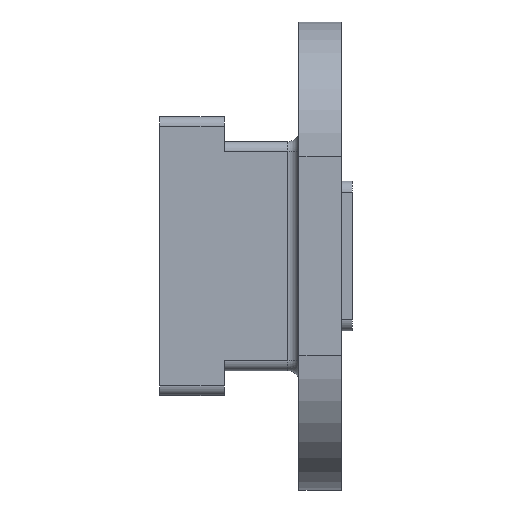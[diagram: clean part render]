
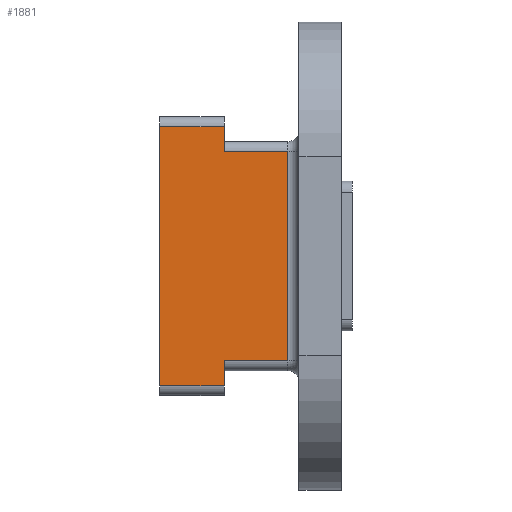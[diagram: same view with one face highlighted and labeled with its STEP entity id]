
A CAD part, top view. The second image highlights one B-rep face of the part: STEP entity #1881.
In plain terms, the highlighted planar face has unit normal (0, 0, 1).
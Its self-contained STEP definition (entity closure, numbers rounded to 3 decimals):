
#128 = PLANE('',#129);
#129 = AXIS2_PLACEMENT_3D('',#130,#131,#132);
#130 = CARTESIAN_POINT('',(36.3,-11.6,-17.));
#131 = DIRECTION('',(1.,0.,-0.));
#132 = DIRECTION('',(0.,0.,1.));
#184 = PLANE('',#185);
#185 = AXIS2_PLACEMENT_3D('',#186,#187,#188);
#186 = CARTESIAN_POINT('',(33.7,-11.6,-17.));
#187 = DIRECTION('',(1.,0.,-0.));
#188 = DIRECTION('',(0.,0.,1.));
#238 = PLANE('',#239);
#239 = AXIS2_PLACEMENT_3D('',#240,#241,#242);
#240 = CARTESIAN_POINT('',(36.3,-11.6,-17.));
#241 = DIRECTION('',(1.,0.,-0.));
#242 = DIRECTION('',(0.,0.,1.));
#493 = VERTEX_POINT('',#494);
#494 = CARTESIAN_POINT('',(36.3,-10.2,-15.));
#513 = CYLINDRICAL_SURFACE('',#514,0.4);
#514 = AXIS2_PLACEMENT_3D('',#515,#516,#517);
#515 = CARTESIAN_POINT('',(36.3,-10.2,-15.4));
#516 = DIRECTION('',(1.,0.,-0.));
#517 = DIRECTION('',(0.,-1.,0.));
#525 = EDGE_CURVE('',#526,#493,#528,.T.);
#526 = VERTEX_POINT('',#527);
#527 = CARTESIAN_POINT('',(36.3,-11.2,-15.));
#528 = SURFACE_CURVE('',#529,(#533,#540),.PCURVE_S1.);
#529 = LINE('',#530,#531);
#530 = CARTESIAN_POINT('',(36.3,-11.6,-15.));
#531 = VECTOR('',#532,1.);
#532 = DIRECTION('',(-0.,1.,0.));
#533 = PCURVE('',#238,#534);
#534 = DEFINITIONAL_REPRESENTATION('',(#535),#539);
#535 = LINE('',#536,#537);
#536 = CARTESIAN_POINT('',(2.,0.));
#537 = VECTOR('',#538,1.);
#538 = DIRECTION('',(0.,-1.));
#539 = ( GEOMETRIC_REPRESENTATION_CONTEXT(2) 
PARAMETRIC_REPRESENTATION_CONTEXT() REPRESENTATION_CONTEXT('2D SPACE',''
  ) );
#540 = PCURVE('',#541,#546);
#541 = PLANE('',#542);
#542 = AXIS2_PLACEMENT_3D('',#543,#544,#545);
#543 = CARTESIAN_POINT('',(33.7,-11.6,-15.));
#544 = DIRECTION('',(0.,0.,1.));
#545 = DIRECTION('',(1.,0.,-0.));
#546 = DEFINITIONAL_REPRESENTATION('',(#547),#551);
#547 = LINE('',#548,#549);
#548 = CARTESIAN_POINT('',(2.6,0.));
#549 = VECTOR('',#550,1.);
#550 = DIRECTION('',(0.,1.));
#551 = ( GEOMETRIC_REPRESENTATION_CONTEXT(2) 
PARAMETRIC_REPRESENTATION_CONTEXT() REPRESENTATION_CONTEXT('2D SPACE',''
  ) );
#572 = CYLINDRICAL_SURFACE('',#573,0.4);
#573 = AXIS2_PLACEMENT_3D('',#574,#575,#576);
#574 = CARTESIAN_POINT('',(33.7,-11.2,-15.4));
#575 = DIRECTION('',(1.,0.,-0.));
#576 = DIRECTION('',(0.,-1.,0.));
#778 = VERTEX_POINT('',#779);
#779 = CARTESIAN_POINT('',(36.3,-0.8,-15.));
#794 = CYLINDRICAL_SURFACE('',#795,0.4);
#795 = AXIS2_PLACEMENT_3D('',#796,#797,#798);
#796 = CARTESIAN_POINT('',(33.7,-0.8,-15.4));
#797 = DIRECTION('',(1.,0.,-0.));
#798 = DIRECTION('',(0.,1.,0.));
#806 = EDGE_CURVE('',#807,#778,#809,.T.);
#807 = VERTEX_POINT('',#808);
#808 = CARTESIAN_POINT('',(36.3,-1.8,-15.));
#809 = SURFACE_CURVE('',#810,(#814,#821),.PCURVE_S1.);
#810 = LINE('',#811,#812);
#811 = CARTESIAN_POINT('',(36.3,-11.6,-15.));
#812 = VECTOR('',#813,1.);
#813 = DIRECTION('',(-0.,1.,0.));
#814 = PCURVE('',#128,#815);
#815 = DEFINITIONAL_REPRESENTATION('',(#816),#820);
#816 = LINE('',#817,#818);
#817 = CARTESIAN_POINT('',(2.,0.));
#818 = VECTOR('',#819,1.);
#819 = DIRECTION('',(0.,-1.));
#820 = ( GEOMETRIC_REPRESENTATION_CONTEXT(2) 
PARAMETRIC_REPRESENTATION_CONTEXT() REPRESENTATION_CONTEXT('2D SPACE',''
  ) );
#821 = PCURVE('',#541,#822);
#822 = DEFINITIONAL_REPRESENTATION('',(#823),#827);
#823 = LINE('',#824,#825);
#824 = CARTESIAN_POINT('',(2.6,0.));
#825 = VECTOR('',#826,1.);
#826 = DIRECTION('',(0.,1.));
#827 = ( GEOMETRIC_REPRESENTATION_CONTEXT(2) 
PARAMETRIC_REPRESENTATION_CONTEXT() REPRESENTATION_CONTEXT('2D SPACE',''
  ) );
#846 = CYLINDRICAL_SURFACE('',#847,0.4);
#847 = AXIS2_PLACEMENT_3D('',#848,#849,#850);
#848 = CARTESIAN_POINT('',(36.3,-1.8,-15.4));
#849 = DIRECTION('',(1.,0.,-0.));
#850 = DIRECTION('',(0.,1.,0.));
#959 = VERTEX_POINT('',#960);
#960 = CARTESIAN_POINT('',(33.7,-0.8,-15.));
#982 = EDGE_CURVE('',#983,#959,#985,.T.);
#983 = VERTEX_POINT('',#984);
#984 = CARTESIAN_POINT('',(33.7,-11.2,-15.));
#985 = SURFACE_CURVE('',#986,(#990,#997),.PCURVE_S1.);
#986 = LINE('',#987,#988);
#987 = CARTESIAN_POINT('',(33.7,-11.6,-15.));
#988 = VECTOR('',#989,1.);
#989 = DIRECTION('',(-0.,1.,0.));
#990 = PCURVE('',#184,#991);
#991 = DEFINITIONAL_REPRESENTATION('',(#992),#996);
#992 = LINE('',#993,#994);
#993 = CARTESIAN_POINT('',(2.,0.));
#994 = VECTOR('',#995,1.);
#995 = DIRECTION('',(0.,-1.));
#996 = ( GEOMETRIC_REPRESENTATION_CONTEXT(2) 
PARAMETRIC_REPRESENTATION_CONTEXT() REPRESENTATION_CONTEXT('2D SPACE',''
  ) );
#997 = PCURVE('',#541,#998);
#998 = DEFINITIONAL_REPRESENTATION('',(#999),#1003);
#999 = LINE('',#1000,#1001);
#1000 = CARTESIAN_POINT('',(0.,0.));
#1001 = VECTOR('',#1002,1.);
#1002 = DIRECTION('',(0.,1.));
#1003 = ( GEOMETRIC_REPRESENTATION_CONTEXT(2) 
PARAMETRIC_REPRESENTATION_CONTEXT() REPRESENTATION_CONTEXT('2D SPACE',''
  ) );
#1274 = CYLINDRICAL_SURFACE('',#1275,0.45);
#1275 = AXIS2_PLACEMENT_3D('',#1276,#1277,#1278);
#1276 = CARTESIAN_POINT('',(38.85,-1.8,-14.55));
#1277 = DIRECTION('',(-0.,-1.,0.));
#1278 = DIRECTION('',(-0.,0.,-1.));
#1860 = EDGE_CURVE('',#983,#526,#1861,.T.);
#1861 = SURFACE_CURVE('',#1862,(#1866,#1873),.PCURVE_S1.);
#1862 = LINE('',#1863,#1864);
#1863 = CARTESIAN_POINT('',(33.7,-11.2,-15.));
#1864 = VECTOR('',#1865,1.);
#1865 = DIRECTION('',(1.,0.,-0.));
#1866 = PCURVE('',#572,#1867);
#1867 = DEFINITIONAL_REPRESENTATION('',(#1868),#1872);
#1868 = LINE('',#1869,#1870);
#1869 = CARTESIAN_POINT('',(4.712,0.));
#1870 = VECTOR('',#1871,1.);
#1871 = DIRECTION('',(-0.,1.));
#1872 = ( GEOMETRIC_REPRESENTATION_CONTEXT(2) 
PARAMETRIC_REPRESENTATION_CONTEXT() REPRESENTATION_CONTEXT('2D SPACE',''
  ) );
#1873 = PCURVE('',#541,#1874);
#1874 = DEFINITIONAL_REPRESENTATION('',(#1875),#1879);
#1875 = LINE('',#1876,#1877);
#1876 = CARTESIAN_POINT('',(0.,0.4));
#1877 = VECTOR('',#1878,1.);
#1878 = DIRECTION('',(1.,0.));
#1879 = ( GEOMETRIC_REPRESENTATION_CONTEXT(2) 
PARAMETRIC_REPRESENTATION_CONTEXT() REPRESENTATION_CONTEXT('2D SPACE',''
  ) );
#1881 = ADVANCED_FACE('',(#1882),#541,.T.);
#1882 = FACE_BOUND('',#1883,.T.);
#1883 = EDGE_LOOP('',(#1884,#1907,#1930,#1951,#1952,#1973,#1974,#1975));
#1884 = ORIENTED_EDGE('',*,*,#1885,.T.);
#1885 = EDGE_CURVE('',#493,#1886,#1888,.T.);
#1886 = VERTEX_POINT('',#1887);
#1887 = CARTESIAN_POINT('',(38.85,-10.2,-15.));
#1888 = SURFACE_CURVE('',#1889,(#1893,#1900),.PCURVE_S1.);
#1889 = LINE('',#1890,#1891);
#1890 = CARTESIAN_POINT('',(36.3,-10.2,-15.));
#1891 = VECTOR('',#1892,1.);
#1892 = DIRECTION('',(1.,0.,-0.));
#1893 = PCURVE('',#541,#1894);
#1894 = DEFINITIONAL_REPRESENTATION('',(#1895),#1899);
#1895 = LINE('',#1896,#1897);
#1896 = CARTESIAN_POINT('',(2.6,1.4));
#1897 = VECTOR('',#1898,1.);
#1898 = DIRECTION('',(1.,0.));
#1899 = ( GEOMETRIC_REPRESENTATION_CONTEXT(2) 
PARAMETRIC_REPRESENTATION_CONTEXT() REPRESENTATION_CONTEXT('2D SPACE',''
  ) );
#1900 = PCURVE('',#513,#1901);
#1901 = DEFINITIONAL_REPRESENTATION('',(#1902),#1906);
#1902 = LINE('',#1903,#1904);
#1903 = CARTESIAN_POINT('',(4.712,0.));
#1904 = VECTOR('',#1905,1.);
#1905 = DIRECTION('',(-0.,1.));
#1906 = ( GEOMETRIC_REPRESENTATION_CONTEXT(2) 
PARAMETRIC_REPRESENTATION_CONTEXT() REPRESENTATION_CONTEXT('2D SPACE',''
  ) );
#1907 = ORIENTED_EDGE('',*,*,#1908,.F.);
#1908 = EDGE_CURVE('',#1909,#1886,#1911,.T.);
#1909 = VERTEX_POINT('',#1910);
#1910 = CARTESIAN_POINT('',(38.85,-1.8,-15.));
#1911 = SURFACE_CURVE('',#1912,(#1916,#1923),.PCURVE_S1.);
#1912 = LINE('',#1913,#1914);
#1913 = CARTESIAN_POINT('',(38.85,-1.8,-15.));
#1914 = VECTOR('',#1915,1.);
#1915 = DIRECTION('',(-0.,-1.,0.));
#1916 = PCURVE('',#541,#1917);
#1917 = DEFINITIONAL_REPRESENTATION('',(#1918),#1922);
#1918 = LINE('',#1919,#1920);
#1919 = CARTESIAN_POINT('',(5.15,9.8));
#1920 = VECTOR('',#1921,1.);
#1921 = DIRECTION('',(-0.,-1.));
#1922 = ( GEOMETRIC_REPRESENTATION_CONTEXT(2) 
PARAMETRIC_REPRESENTATION_CONTEXT() REPRESENTATION_CONTEXT('2D SPACE',''
  ) );
#1923 = PCURVE('',#1274,#1924);
#1924 = DEFINITIONAL_REPRESENTATION('',(#1925),#1929);
#1925 = LINE('',#1926,#1927);
#1926 = CARTESIAN_POINT('',(0.,0.));
#1927 = VECTOR('',#1928,1.);
#1928 = DIRECTION('',(0.,1.));
#1929 = ( GEOMETRIC_REPRESENTATION_CONTEXT(2) 
PARAMETRIC_REPRESENTATION_CONTEXT() REPRESENTATION_CONTEXT('2D SPACE',''
  ) );
#1930 = ORIENTED_EDGE('',*,*,#1931,.F.);
#1931 = EDGE_CURVE('',#807,#1909,#1932,.T.);
#1932 = SURFACE_CURVE('',#1933,(#1937,#1944),.PCURVE_S1.);
#1933 = LINE('',#1934,#1935);
#1934 = CARTESIAN_POINT('',(36.3,-1.8,-15.));
#1935 = VECTOR('',#1936,1.);
#1936 = DIRECTION('',(1.,0.,-0.));
#1937 = PCURVE('',#541,#1938);
#1938 = DEFINITIONAL_REPRESENTATION('',(#1939),#1943);
#1939 = LINE('',#1940,#1941);
#1940 = CARTESIAN_POINT('',(2.6,9.8));
#1941 = VECTOR('',#1942,1.);
#1942 = DIRECTION('',(1.,0.));
#1943 = ( GEOMETRIC_REPRESENTATION_CONTEXT(2) 
PARAMETRIC_REPRESENTATION_CONTEXT() REPRESENTATION_CONTEXT('2D SPACE',''
  ) );
#1944 = PCURVE('',#846,#1945);
#1945 = DEFINITIONAL_REPRESENTATION('',(#1946),#1950);
#1946 = LINE('',#1947,#1948);
#1947 = CARTESIAN_POINT('',(1.571,0.));
#1948 = VECTOR('',#1949,1.);
#1949 = DIRECTION('',(0.,1.));
#1950 = ( GEOMETRIC_REPRESENTATION_CONTEXT(2) 
PARAMETRIC_REPRESENTATION_CONTEXT() REPRESENTATION_CONTEXT('2D SPACE',''
  ) );
#1951 = ORIENTED_EDGE('',*,*,#806,.T.);
#1952 = ORIENTED_EDGE('',*,*,#1953,.F.);
#1953 = EDGE_CURVE('',#959,#778,#1954,.T.);
#1954 = SURFACE_CURVE('',#1955,(#1959,#1966),.PCURVE_S1.);
#1955 = LINE('',#1956,#1957);
#1956 = CARTESIAN_POINT('',(33.7,-0.8,-15.));
#1957 = VECTOR('',#1958,1.);
#1958 = DIRECTION('',(1.,0.,-0.));
#1959 = PCURVE('',#541,#1960);
#1960 = DEFINITIONAL_REPRESENTATION('',(#1961),#1965);
#1961 = LINE('',#1962,#1963);
#1962 = CARTESIAN_POINT('',(0.,10.8));
#1963 = VECTOR('',#1964,1.);
#1964 = DIRECTION('',(1.,0.));
#1965 = ( GEOMETRIC_REPRESENTATION_CONTEXT(2) 
PARAMETRIC_REPRESENTATION_CONTEXT() REPRESENTATION_CONTEXT('2D SPACE',''
  ) );
#1966 = PCURVE('',#794,#1967);
#1967 = DEFINITIONAL_REPRESENTATION('',(#1968),#1972);
#1968 = LINE('',#1969,#1970);
#1969 = CARTESIAN_POINT('',(1.571,0.));
#1970 = VECTOR('',#1971,1.);
#1971 = DIRECTION('',(0.,1.));
#1972 = ( GEOMETRIC_REPRESENTATION_CONTEXT(2) 
PARAMETRIC_REPRESENTATION_CONTEXT() REPRESENTATION_CONTEXT('2D SPACE',''
  ) );
#1973 = ORIENTED_EDGE('',*,*,#982,.F.);
#1974 = ORIENTED_EDGE('',*,*,#1860,.T.);
#1975 = ORIENTED_EDGE('',*,*,#525,.T.);
